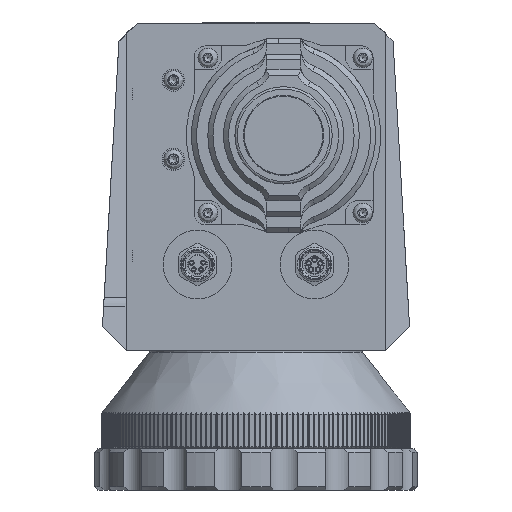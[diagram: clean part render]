
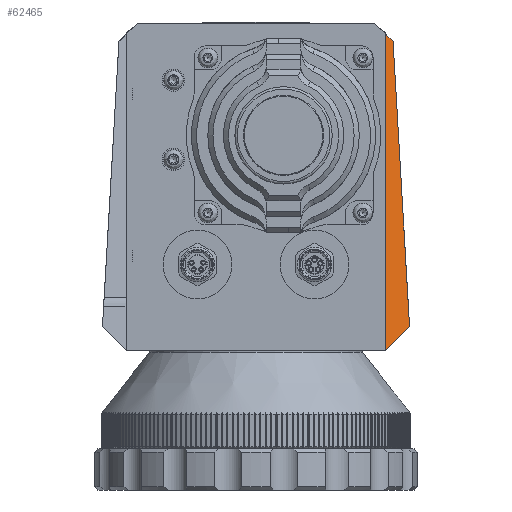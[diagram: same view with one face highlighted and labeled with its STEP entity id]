
A CAD part, front view. The second image highlights one B-rep face of the part: STEP entity #62465.
In plain terms, the highlighted planar face has unit normal (0, -0.985, 0.174).
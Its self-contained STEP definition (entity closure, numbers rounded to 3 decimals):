
#30491=PLANE('',#137736);
#34653=FACE_OUTER_BOUND('',#70349,.T.);
#39671=LINE('',#169718,#47637);
#39714=LINE('',#169836,#47680);
#39840=LINE('',#170167,#47806);
#39841=LINE('',#170168,#47807);
#39842=LINE('',#170170,#47808);
#39843=LINE('',#170172,#47809);
#39844=LINE('',#170174,#47810);
#39845=LINE('',#170176,#47811);
#39846=LINE('',#170178,#47812);
#47637=VECTOR('',#147193,1.);
#47680=VECTOR('',#147270,1.);
#47806=VECTOR('',#147486,1.);
#47807=VECTOR('',#147487,1.);
#47808=VECTOR('',#147488,1.);
#47809=VECTOR('',#147489,1.);
#47810=VECTOR('',#147490,1.);
#47811=VECTOR('',#147491,1.);
#47812=VECTOR('',#147492,1.);
#62465=ADVANCED_FACE('',(#34653),#30491,.T.);
#70349=EDGE_LOOP('',(#80387,#80388,#80389,#80390,#80391,#80392,#80393,#80394,
#80395));
#80387=ORIENTED_EDGE('',*,*,#120369,.F.);
#80388=ORIENTED_EDGE('',*,*,#120144,.F.);
#80389=ORIENTED_EDGE('',*,*,#120370,.T.);
#80390=ORIENTED_EDGE('',*,*,#120371,.F.);
#80391=ORIENTED_EDGE('',*,*,#120372,.T.);
#80392=ORIENTED_EDGE('',*,*,#120373,.T.);
#80393=ORIENTED_EDGE('',*,*,#120374,.F.);
#80394=ORIENTED_EDGE('',*,*,#120375,.T.);
#80395=ORIENTED_EDGE('',*,*,#120203,.F.);
#108605=VERTEX_POINT('',#169719);
#108606=VERTEX_POINT('',#169720);
#108662=VERTEX_POINT('',#169835);
#108663=VERTEX_POINT('',#169837);
#108823=VERTEX_POINT('',#170169);
#108824=VERTEX_POINT('',#170171);
#108825=VERTEX_POINT('',#170173);
#108826=VERTEX_POINT('',#170175);
#108827=VERTEX_POINT('',#170177);
#120144=EDGE_CURVE('',#108605,#108606,#39671,.T.);
#120203=EDGE_CURVE('',#108662,#108663,#39714,.T.);
#120369=EDGE_CURVE('',#108606,#108662,#39840,.T.);
#120370=EDGE_CURVE('',#108605,#108823,#39841,.T.);
#120371=EDGE_CURVE('',#108824,#108823,#39842,.T.);
#120372=EDGE_CURVE('',#108824,#108825,#39843,.T.);
#120373=EDGE_CURVE('',#108825,#108826,#39844,.T.);
#120374=EDGE_CURVE('',#108827,#108826,#39845,.T.);
#120375=EDGE_CURVE('',#108827,#108663,#39846,.T.);
#137736=AXIS2_PLACEMENT_3D('',#170179,#147493,#147494);
#147193=DIRECTION('',(0.057,-0.173,-0.983));
#147270=DIRECTION('',(0.,0.174,0.985));
#147486=DIRECTION('',(-0.702,-0.124,-0.702));
#147487=DIRECTION('',(-0.702,0.124,0.702));
#147488=DIRECTION('',(1.,0.,0.));
#147489=DIRECTION('',(0.,-0.174,-0.985));
#147490=DIRECTION('',(1.,0.,0.));
#147491=DIRECTION('',(0.,0.174,0.985));
#147492=DIRECTION('',(1.,0.,0.));
#147493=DIRECTION('',(0.,-0.985,0.174));
#147494=DIRECTION('',(0.,-0.174,-0.985));
#169718=CARTESIAN_POINT('',(39.5,278.045,94.992));
#169719=CARTESIAN_POINT('',(39.807,277.11,89.693));
#169720=CARTESIAN_POINT('',(44.59,262.545,7.09));
#169835=CARTESIAN_POINT('',(37.5,261.295,0.));
#169836=CARTESIAN_POINT('',(37.5,278.617,98.24));
#169837=CARTESIAN_POINT('',(37.5,268.567,41.24));
#170167=CARTESIAN_POINT('',(85.895,269.828,48.395));
#170168=CARTESIAN_POINT('',(32.855,278.336,96.645));
#170169=CARTESIAN_POINT('',(34.5,278.046,95.));
#170170=CARTESIAN_POINT('',(8.5,278.046,95.));
#170171=CARTESIAN_POINT('',(10.,278.046,95.));
#170172=CARTESIAN_POINT('',(10.,276.31,85.152));
#170173=CARTESIAN_POINT('',(10.,276.31,85.152));
#170174=CARTESIAN_POINT('',(8.5,276.31,85.152));
#170175=CARTESIAN_POINT('',(34.5,276.31,85.152));
#170176=CARTESIAN_POINT('',(34.5,278.617,98.24));
#170177=CARTESIAN_POINT('',(34.5,268.567,41.24));
#170178=CARTESIAN_POINT('',(34.5,268.567,41.24));
#170179=CARTESIAN_POINT('',(34.5,278.617,98.24));
